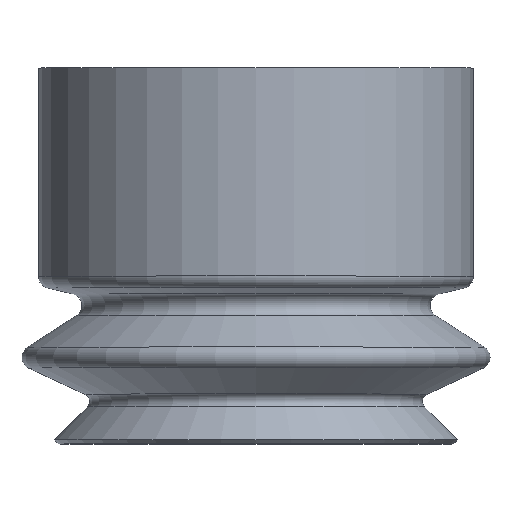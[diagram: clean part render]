
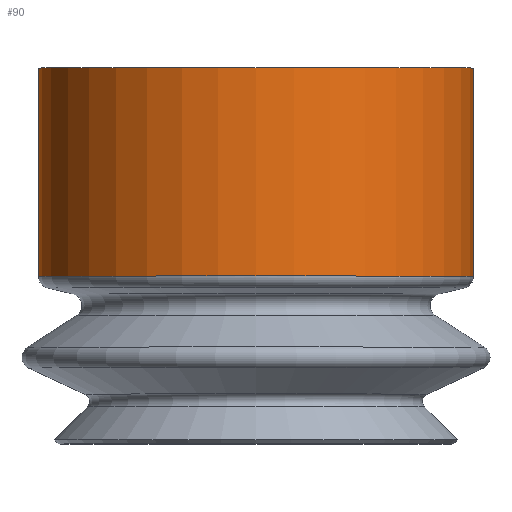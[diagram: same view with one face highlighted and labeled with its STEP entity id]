
A CAD part, top view. The second image highlights one B-rep face of the part: STEP entity #90.
In plain terms, the highlighted cylindrical face has radius 5.5 mm (diameter 11 mm), a full revolution.
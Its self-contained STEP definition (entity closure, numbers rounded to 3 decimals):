
#90=ADVANCED_FACE('',(#144,#145),#146,.T.);
#144=FACE_OUTER_BOUND('',#213,.T.);
#145=FACE_OUTER_BOUND('',#214,.T.);
#146=CYLINDRICAL_SURFACE('',#215,5.5);
#213=EDGE_LOOP('',(#312));
#214=EDGE_LOOP('',(#313));
#215=AXIS2_PLACEMENT_3D('',#314,#315,#316);
#312=ORIENTED_EDGE('',*,*,#352,.T.);
#313=ORIENTED_EDGE('',*,*,#372,.T.);
#314=CARTESIAN_POINT('',(0.0,0.0,0.0));
#315=DIRECTION('',(0.0,-1.0,0.));
#316=DIRECTION('',(0.0,0.,-1.0));
#352=EDGE_CURVE('',#375,#375,#376,.T.);
#372=EDGE_CURVE('',#415,#415,#416,.T.);
#375=VERTEX_POINT('',#421);
#376=CIRCLE('',#422,5.5);
#415=VERTEX_POINT('',#461);
#416=CIRCLE('',#462,5.5);
#421=CARTESIAN_POINT('',(0.0,10.818,5.5));
#422=AXIS2_PLACEMENT_3D('',#467,#468,#469);
#461=CARTESIAN_POINT('',(5.5,16.081,0.));
#462=AXIS2_PLACEMENT_3D('',#527,#528,#529);
#467=CARTESIAN_POINT('',(0.0,10.818,0.));
#468=DIRECTION('',(0.0,1.0,0.));
#469=DIRECTION('',(0.0,0.,1.0));
#527=CARTESIAN_POINT('',(0.0,16.081,0.));
#528=DIRECTION('',(0.0,-1.0,0.));
#529=DIRECTION('',(0.0,0.,-1.0));
